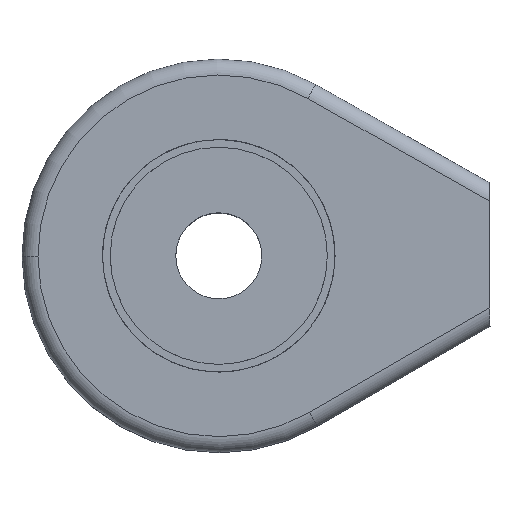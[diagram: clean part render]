
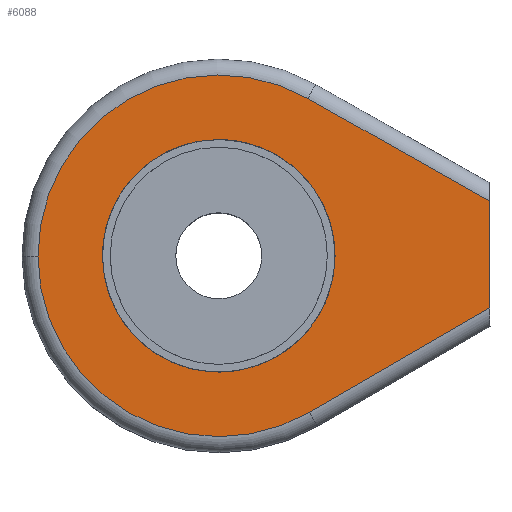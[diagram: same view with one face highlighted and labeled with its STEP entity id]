
A CAD part, top view. The second image highlights one B-rep face of the part: STEP entity #6088.
In plain terms, the highlighted planar face has unit normal (0, 0, 1).
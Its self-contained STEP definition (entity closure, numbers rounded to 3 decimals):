
#99 = CARTESIAN_POINT ( 'NONE',  ( 5.638, -9.851, 6.755 ) ) ;
#235 = CARTESIAN_POINT ( 'NONE',  ( -11.35, 0., 6.755 ) ) ;
#244 = EDGE_CURVE ( 'NONE', #6482, #4188, #3276, .T. ) ;
#302 = DIRECTION ( 'NONE',  ( 0., 0., 1. ) ) ;
#424 = FACE_BOUND ( 'NONE', #910, .T. ) ;
#484 = ORIENTED_EDGE ( 'NONE', *, *, #7140, .T. ) ;
#596 = CIRCLE ( 'NONE', #6329, 7.3 ) ;
#685 = CARTESIAN_POINT ( 'NONE',  ( 0., 0., 6.755 ) ) ;
#734 = VERTEX_POINT ( 'NONE', #1261 ) ;
#746 = CARTESIAN_POINT ( 'NONE',  ( 7.3, 0., 6.755 ) ) ;
#870 = CARTESIAN_POINT ( 'NONE',  ( 0., 0., 6.755 ) ) ;
#910 = EDGE_LOOP ( 'NONE', ( #1619, #4064 ) ) ;
#1077 = CARTESIAN_POINT ( 'NONE',  ( 17., -3.348, 6.755 ) ) ;
#1089 = AXIS2_PLACEMENT_3D ( 'NONE', #3337, #5661, #1497 ) ;
#1261 = CARTESIAN_POINT ( 'NONE',  ( 5.638, 9.851, 6.755 ) ) ;
#1497 = DIRECTION ( 'NONE',  ( -1., 0., 0. ) ) ;
#1619 = ORIENTED_EDGE ( 'NONE', *, *, #244, .F. ) ;
#1965 = ORIENTED_EDGE ( 'NONE', *, *, #4750, .T. ) ;
#2075 = DIRECTION ( 'NONE',  ( 1., 0., 0. ) ) ;
#2083 = VECTOR ( 'NONE', #3143, 1000. ) ;
#2120 = EDGE_CURVE ( 'NONE', #2762, #734, #4185, .T. ) ;
#2275 = DIRECTION ( 'NONE',  ( -0.868, 0.497, 0. ) ) ;
#2429 = AXIS2_PLACEMENT_3D ( 'NONE', #870, #302, #2637 ) ;
#2571 = LINE ( 'NONE', #7244, #2083 ) ;
#2605 = CIRCLE ( 'NONE', #4555, 11.35 ) ;
#2637 = DIRECTION ( 'NONE',  ( -1., 0., 0. ) ) ;
#2642 = ORIENTED_EDGE ( 'NONE', *, *, #6413, .T. ) ;
#2762 = VERTEX_POINT ( 'NONE', #4508 ) ;
#2816 = ORIENTED_EDGE ( 'NONE', *, *, #5885, .T. ) ;
#3143 = DIRECTION ( 'NONE',  ( 0.868, 0.497, 0. ) ) ;
#3276 = CIRCLE ( 'NONE', #4247, 7.3 ) ;
#3337 = CARTESIAN_POINT ( 'NONE',  ( 0., 0., 6.755 ) ) ;
#3462 = VERTEX_POINT ( 'NONE', #235 ) ;
#3655 = ORIENTED_EDGE ( 'NONE', *, *, #2120, .T. ) ;
#4035 = CIRCLE ( 'NONE', #2429, 11.35 ) ;
#4036 = EDGE_LOOP ( 'NONE', ( #2816, #3655, #1965, #2642, #484 ) ) ;
#4064 = ORIENTED_EDGE ( 'NONE', *, *, #6044, .F. ) ;
#4185 = LINE ( 'NONE', #6496, #6002 ) ;
#4188 = VERTEX_POINT ( 'NONE', #746 ) ;
#4247 = AXIS2_PLACEMENT_3D ( 'NONE', #7190, #6631, #4926 ) ;
#4409 = CARTESIAN_POINT ( 'NONE',  ( 0., 0., 6.755 ) ) ;
#4479 = FACE_OUTER_BOUND ( 'NONE', #4036, .T. ) ;
#4508 = CARTESIAN_POINT ( 'NONE',  ( 17., 3.348, 6.755 ) ) ;
#4555 = AXIS2_PLACEMENT_3D ( 'NONE', #685, #5945, #6525 ) ;
#4600 = LINE ( 'NONE', #5209, #5721 ) ;
#4750 = EDGE_CURVE ( 'NONE', #734, #3462, #2605, .T. ) ;
#4926 = DIRECTION ( 'NONE',  ( 1., 0., 0. ) ) ;
#5089 = PLANE ( 'NONE',  #1089 ) ;
#5209 = CARTESIAN_POINT ( 'NONE',  ( 17., 4.5, 6.755 ) ) ;
#5661 = DIRECTION ( 'NONE',  ( 0., 0., -1. ) ) ;
#5721 = VECTOR ( 'NONE', #5811, 1000. ) ;
#5811 = DIRECTION ( 'NONE',  ( 0., 1., 0. ) ) ;
#5885 = EDGE_CURVE ( 'NONE', #5957, #2762, #4600, .T. ) ;
#5945 = DIRECTION ( 'NONE',  ( 0., 0., 1. ) ) ;
#5957 = VERTEX_POINT ( 'NONE', #1077 ) ;
#6002 = VECTOR ( 'NONE', #2275, 1000. ) ;
#6044 = EDGE_CURVE ( 'NONE', #4188, #6482, #596, .T. ) ;
#6088 = ADVANCED_FACE ( 'NONE', ( #4479, #424 ), #5089, .F. ) ;
#6329 = AXIS2_PLACEMENT_3D ( 'NONE', #4409, #6714, #2075 ) ;
#6373 = VERTEX_POINT ( 'NONE', #99 ) ;
#6413 = EDGE_CURVE ( 'NONE', #3462, #6373, #4035, .T. ) ;
#6482 = VERTEX_POINT ( 'NONE', #7341 ) ;
#6496 = CARTESIAN_POINT ( 'NONE',  ( 5.638, 9.851, 6.755 ) ) ;
#6525 = DIRECTION ( 'NONE',  ( -1., 0., 0. ) ) ;
#6631 = DIRECTION ( 'NONE',  ( 0., 0., 1. ) ) ;
#6714 = DIRECTION ( 'NONE',  ( 0., 0., 1. ) ) ;
#7140 = EDGE_CURVE ( 'NONE', #6373, #5957, #2571, .T. ) ;
#7190 = CARTESIAN_POINT ( 'NONE',  ( 0., 0., 6.755 ) ) ;
#7244 = CARTESIAN_POINT ( 'NONE',  ( 5.638, -9.851, 6.755 ) ) ;
#7341 = CARTESIAN_POINT ( 'NONE',  ( -7.3, 0., 6.755 ) ) ;
